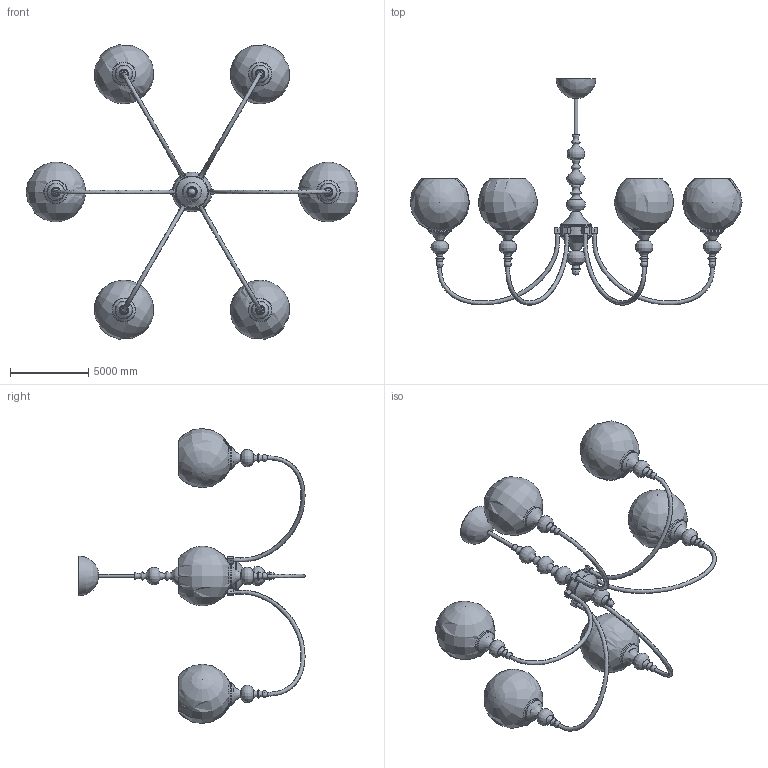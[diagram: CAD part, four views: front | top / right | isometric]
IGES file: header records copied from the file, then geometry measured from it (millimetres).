
Global section: file name: Retro Monique Chandelier-6heads; native system: AutoCAD 2022 - 简体中文 (Simplified Chinese),62HAuto; preprocessor: desk Translation Framework DWG producer (atf_dwg_producer); organization: unknown; date: 20251018.174643; units: inch
Bounding box: 21253.25 x 14471.04 x 18875.41 mm (x, y, z)
Volume: 33936369788.2 mm3; surface area: 820728432 mm2
Topology: 76 solids, 76 shells, 447 faces, 1030 edges, 738 vertices
Faces by surface type: bspline 447
